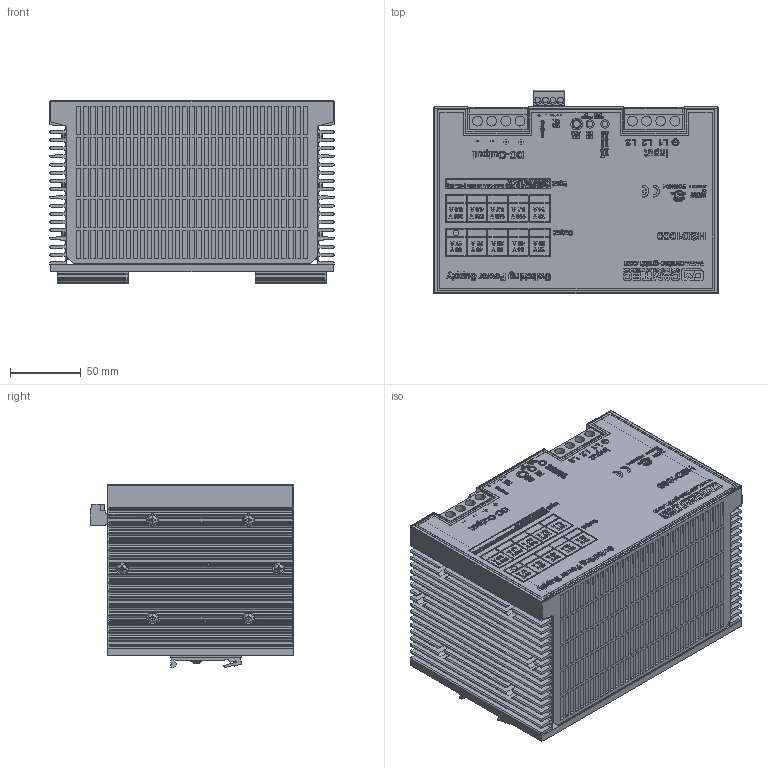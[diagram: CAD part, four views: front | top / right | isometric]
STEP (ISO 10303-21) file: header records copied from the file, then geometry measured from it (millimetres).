
FILE_DESCRIPTION( /* description */ (''), /* implementation_level */ '2;1');
FILE_NAME( /* name */ 'D:\Alle CAD Daten\CAMTEC 2017\Gehäuse HSE_ HSEUreg und HSEUIre g\Gehäuse HSD10001-60T\Baugruppe HSD10001-60T\HSD10001-60T.stp', /* time_stamp */ '2017-03-29T23:12:46+02:00', /* author */ ('RBZ'), /* organization */ (''), /* preprocessor_version */ 'ST-DEVELOPER v16.5', /* originating_system */ 'Autodesk Inventor 2017', /* authorisation */ '');
FILE_SCHEMA (('CONFIG_CONTROL_DESIGN'));
Products named in the file (3): HSD10001-60T; HSD10001-60T_1; Aufkleber HSD10001-60T
Assembly tree (2 placements, depth 2):
  HSD10001-60T
    HSD10001-60T_1
    Aufkleber HSD10001-60T
Bounding box: 201 x 144 x 129.7 mm (x, y, z)
Volume: 2684278.3 mm3; surface area: 507277.9 mm2
Topology: 423 solids, 423 shells, 7776 faces, 20730 edges, 13798 vertices
Faces by surface type: plane 5229, bspline 2097, cylinder 450
Full cylindrical faces by diameter (mm): 1.564 x6, 2.04 x2, 4 x10, 5 x3, 5.2 x2, 5.8 x4, 6 x8, 6.2 x1, 6.4 x2, 6.7 x12, 7 x8, 8 x8, 8.2 x2, 8.6 x12
Entity records: 254818 total; most frequent: CARTESIAN_POINT 72018, ORIENTED_EDGE 41280, DIRECTION 28640, EDGE_CURVE 20638, LINE 15152, VECTOR 15152, VERTEX_POINT 13786, EDGE_LOOP 8864
